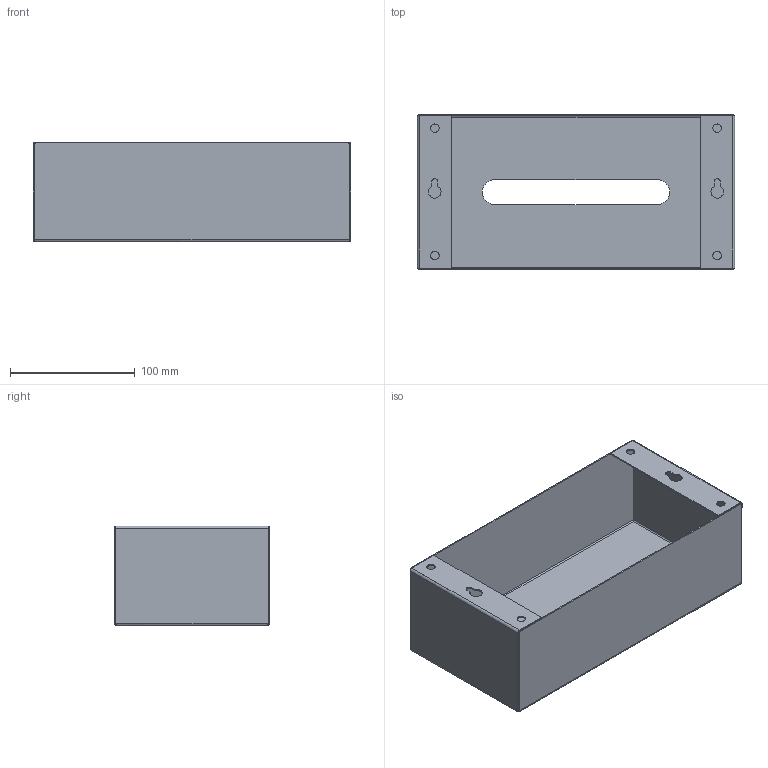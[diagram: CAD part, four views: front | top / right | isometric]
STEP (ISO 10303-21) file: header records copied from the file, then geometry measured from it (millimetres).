
FILE_DESCRIPTION (( 'STEP AP203' ), '1' );
FILE_NAME ('09-003-0254-W-00-00.STEP', '2025-04-17T05:34:53', ( '' ), ( '' ), 'SwSTEP 2.0', 'SolidWorks 2021', '' );
FILE_SCHEMA (( 'CONFIG_CONTROL_DESIGN' ));
Length unit declared in the file: millimetre
Products named in the file (1): 09-003-0254-W-00-00
Bounding box: 254 x 124 x 80 mm (x, y, z)
Volume: 92710.5 mm3; surface area: 187400.2 mm2
Topology: 1 solids, 1 shells, 83 faces, 195 edges, 114 vertices
Faces by surface type: plane 40, cylinder 35, bspline 8
Entity records: 2947 total; most frequent: CARTESIAN_POINT 996, ORIENTED_EDGE 390, DIRECTION 373, EDGE_CURVE 195, AXIS2_PLACEMENT_3D 130, VERTEX_POINT 114, LINE 113, VECTOR 113
